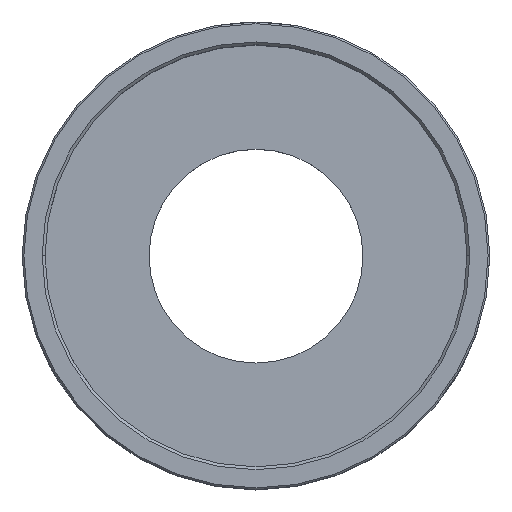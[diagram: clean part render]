
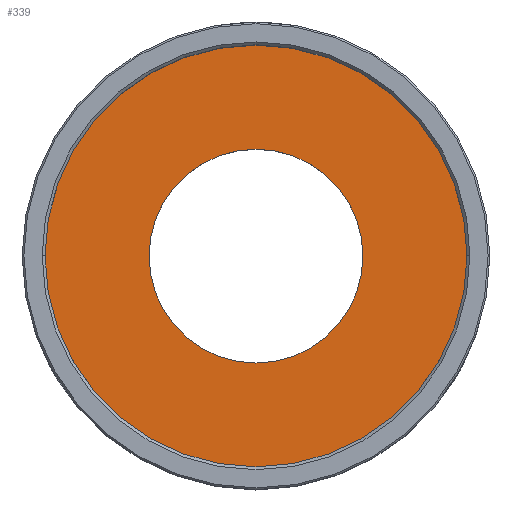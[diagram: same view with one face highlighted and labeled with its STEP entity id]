
A CAD part, top view. The second image highlights one B-rep face of the part: STEP entity #339.
In plain terms, the highlighted planar face has unit normal (0, 0, 1).
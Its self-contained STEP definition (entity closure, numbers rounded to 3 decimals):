
#10 = VERTEX_POINT ( 'NONE', #277 ) ;
#26 = EDGE_CURVE ( 'NONE', #410, #1259, #932, .T. ) ;
#59 = FACE_BOUND ( 'NONE', #136, .T. ) ;
#65 = DIRECTION ( 'NONE',  ( 0., 0., 1. ) ) ;
#136 = EDGE_LOOP ( 'NONE', ( #146, #335 ) ) ;
#146 = ORIENTED_EDGE ( 'NONE', *, *, #211, .F. ) ;
#211 = EDGE_CURVE ( 'NONE', #1259, #410, #533, .T. ) ;
#276 = CARTESIAN_POINT ( 'NONE',  ( -18.75, 0., -32. ) ) ;
#277 = CARTESIAN_POINT ( 'NONE',  ( 37., 0., -32. ) ) ;
#309 = EDGE_LOOP ( 'NONE', ( #1203, #1063 ) ) ;
#335 = ORIENTED_EDGE ( 'NONE', *, *, #26, .F. ) ;
#339 = ADVANCED_FACE ( 'NONE', ( #59, #783 ), #466, .F. ) ;
#375 = DIRECTION ( 'NONE',  ( 1., 0., 0. ) ) ;
#389 = DIRECTION ( 'NONE',  ( 0., 0., 1. ) ) ;
#410 = VERTEX_POINT ( 'NONE', #276 ) ;
#411 = DIRECTION ( 'NONE',  ( 1., 0., 0. ) ) ;
#466 = PLANE ( 'NONE',  #1112 ) ;
#501 = EDGE_CURVE ( 'NONE', #1176, #10, #1201, .T. ) ;
#533 = CIRCLE ( 'NONE', #619, 18.75 ) ;
#551 = DIRECTION ( 'NONE',  ( 1., 0., 0. ) ) ;
#619 = AXIS2_PLACEMENT_3D ( 'NONE', #645, #828, #551 ) ;
#645 = CARTESIAN_POINT ( 'NONE',  ( 0., 0., -32. ) ) ;
#661 = AXIS2_PLACEMENT_3D ( 'NONE', #975, #65, #375 ) ;
#694 = DIRECTION ( 'NONE',  ( 0., 0., -1. ) ) ;
#771 = AXIS2_PLACEMENT_3D ( 'NONE', #1001, #389, #411 ) ;
#783 = FACE_OUTER_BOUND ( 'NONE', #309, .T. ) ;
#794 = DIRECTION ( 'NONE',  ( 1., 0., 0. ) ) ;
#828 = DIRECTION ( 'NONE',  ( 0., 0., 1. ) ) ;
#866 = CARTESIAN_POINT ( 'NONE',  ( -37., 0., -32. ) ) ;
#874 = CIRCLE ( 'NONE', #771, 37. ) ;
#932 = CIRCLE ( 'NONE', #661, 18.75 ) ;
#975 = CARTESIAN_POINT ( 'NONE',  ( 0., 0., -32. ) ) ;
#997 = CARTESIAN_POINT ( 'NONE',  ( 0., 0., -32. ) ) ;
#1001 = CARTESIAN_POINT ( 'NONE',  ( 0., 0., -32. ) ) ;
#1010 = DIRECTION ( 'NONE',  ( 0., 0., 1. ) ) ;
#1023 = CARTESIAN_POINT ( 'NONE',  ( 18.75, 0., -32. ) ) ;
#1063 = ORIENTED_EDGE ( 'NONE', *, *, #501, .T. ) ;
#1085 = CARTESIAN_POINT ( 'NONE',  ( 0., 37., -32. ) ) ;
#1091 = DIRECTION ( 'NONE',  ( -1., 0., 0. ) ) ;
#1112 = AXIS2_PLACEMENT_3D ( 'NONE', #1085, #694, #1091 ) ;
#1176 = VERTEX_POINT ( 'NONE', #866 ) ;
#1201 = CIRCLE ( 'NONE', #1304, 37. ) ;
#1203 = ORIENTED_EDGE ( 'NONE', *, *, #1207, .T. ) ;
#1207 = EDGE_CURVE ( 'NONE', #10, #1176, #874, .T. ) ;
#1259 = VERTEX_POINT ( 'NONE', #1023 ) ;
#1304 = AXIS2_PLACEMENT_3D ( 'NONE', #997, #1010, #794 ) ;
